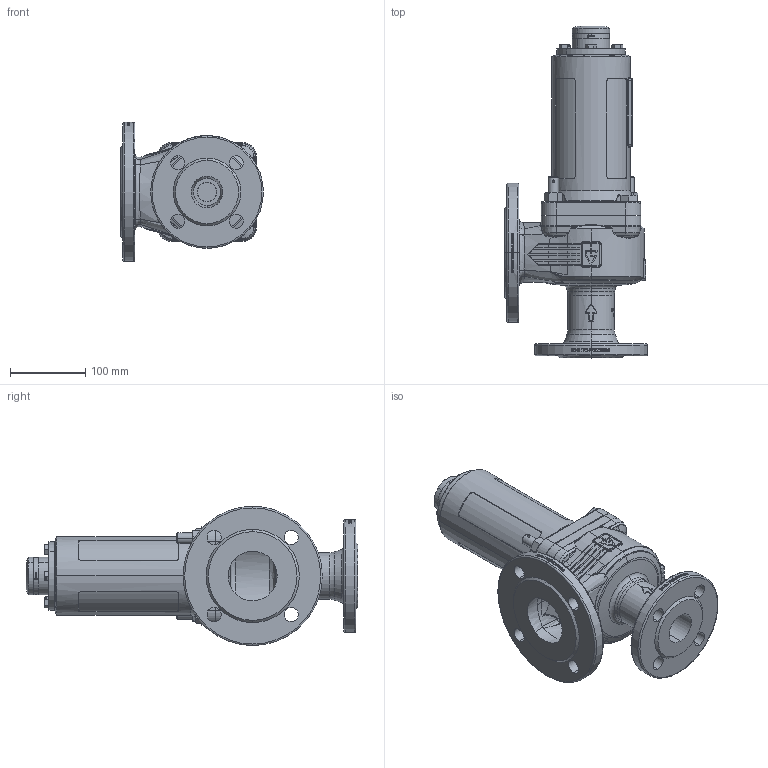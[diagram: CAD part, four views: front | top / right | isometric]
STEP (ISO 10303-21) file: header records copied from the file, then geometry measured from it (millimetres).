
FILE_DESCRIPTION (( 'STEP AP214' ), '1' );
FILE_NAME ('355sGO_40_FLFL_4065.STEP', '2020-01-16T14:19:07', ( '' ), ( '' ), 'SwSTEP 2.0', 'SolidWorks 2018', '' );
FILE_SCHEMA (( 'AUTOMOTIVE_DESIGN' ));
Length unit declared in the file: millimetre
Products named in the file (1): 355sGO_40_FLFL_4065
Bounding box: 190 x 441.5 x 185 mm (x, y, z)
Volume: 2165175.6 mm3; surface area: 470408.1 mm2
Topology: 15 solids, 15 shells, 2044 faces, 5555 edges, 3713 vertices
Faces by surface type: bspline 690, plane 523, cylinder 482, cone 230, torus 118, sphere 1
Entity records: 162104 total; most frequent: CARTESIAN_POINT 93110, ORIENTED_EDGE 11014, DIRECTION 7588, EDGE_CURVE 5507, VERTEX_POINT 3713, AXIS2_PLACEMENT_3D 3042, EDGE_LOOP 2324, B_SPLINE_CURVE_WITH_KNOTS 2270
